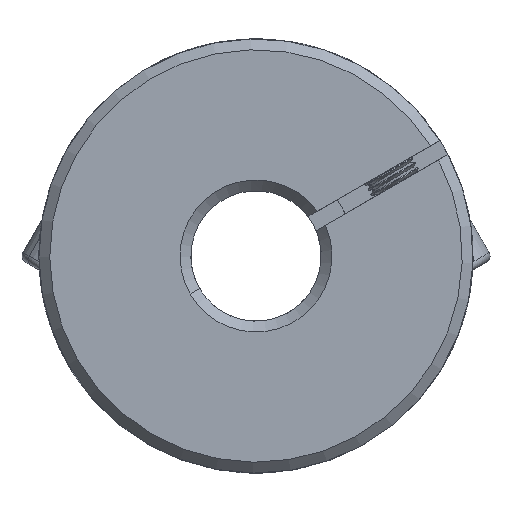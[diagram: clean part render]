
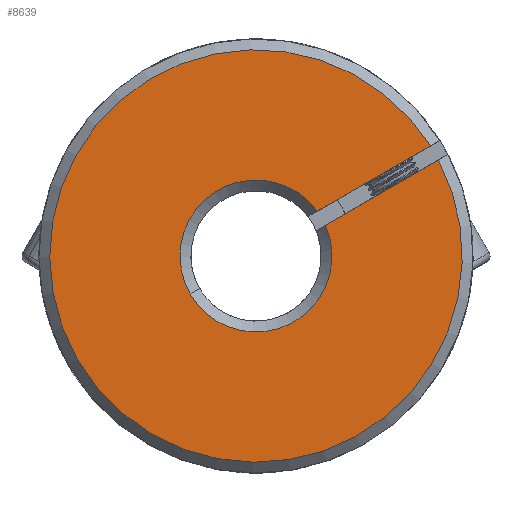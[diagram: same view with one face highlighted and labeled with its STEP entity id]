
A CAD part, front view. The second image highlights one B-rep face of the part: STEP entity #8639.
In plain terms, the highlighted planar face has unit normal (0, -1, 0).
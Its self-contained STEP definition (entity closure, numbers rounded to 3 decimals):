
#101 = PLANE ( 'NONE',  #3161 ) ;
#1009 = ORIENTED_EDGE ( 'NONE', *, *, #9622, .F. ) ;
#1121 = DIRECTION ( 'NONE',  ( 0., 1., 0. ) ) ;
#1793 = DIRECTION ( 'NONE',  ( 0.5, 0., -0.866 ) ) ;
#1805 = ORIENTED_EDGE ( 'NONE', *, *, #2521, .F. ) ;
#1842 = CARTESIAN_POINT ( 'NONE',  ( -1.447, -31.239, 40. ) ) ;
#1853 = VERTEX_POINT ( 'NONE', #9795 ) ;
#1957 = ORIENTED_EDGE ( 'NONE', *, *, #10071, .T. ) ;
#2521 = EDGE_CURVE ( 'NONE', #4926, #11601, #5019, .T. ) ;
#2985 = CARTESIAN_POINT ( 'NONE',  ( -1.447, -31.239, 40. ) ) ;
#3161 = AXIS2_PLACEMENT_3D ( 'NONE', #7474, #1121, #5464 ) ;
#3629 = EDGE_CURVE ( 'NONE', #4413, #11601, #12766, .T. ) ;
#3675 = CARTESIAN_POINT ( 'NONE',  ( 4.954, -31.239, 42.832 ) ) ;
#3915 = AXIS2_PLACEMENT_3D ( 'NONE', #10441, #9288, #8406 ) ;
#3949 = CARTESIAN_POINT ( 'NONE',  ( 4.204, -31.239, 44.131 ) ) ;
#4067 = EDGE_CURVE ( 'NONE', #4926, #1853, #9170, .T. ) ;
#4071 = ORIENTED_EDGE ( 'NONE', *, *, #3629, .T. ) ;
#4413 = VERTEX_POINT ( 'NONE', #9205 ) ;
#4926 = VERTEX_POINT ( 'NONE', #3675 ) ;
#5019 = LINE ( 'NONE', #12350, #8706 ) ;
#5026 = AXIS2_PLACEMENT_3D ( 'NONE', #2985, #11618, #1793 ) ;
#5187 = FACE_OUTER_BOUND ( 'NONE', #11106, .T. ) ;
#5324 = DIRECTION ( 'NONE',  ( -0.866, 0., -0.5 ) ) ;
#5464 = DIRECTION ( 'NONE',  ( 0.5, 0., -0.866 ) ) ;
#7129 = CARTESIAN_POINT ( 'NONE',  ( 15.367, -31.239, 48.848 ) ) ;
#7474 = CARTESIAN_POINT ( 'NONE',  ( 52.98, -31.239, 45.743 ) ) ;
#7752 = VERTEX_POINT ( 'NONE', #3949 ) ;
#8111 = DIRECTION ( 'NONE',  ( 0.866, 0., 0.5 ) ) ;
#8406 = DIRECTION ( 'NONE',  ( 0.5, 0., -0.866 ) ) ;
#8543 = AXIS2_PLACEMENT_3D ( 'NONE', #1842, #12667, #10318 ) ;
#8639 = ADVANCED_FACE ( 'NONE', ( #5187 ), #101, .F. ) ;
#8706 = VECTOR ( 'NONE', #8111, 1000. ) ;
#9170 = CIRCLE ( 'NONE', #8543, 7. ) ;
#9205 = CARTESIAN_POINT ( 'NONE',  ( 14.616, -31.239, 50.147 ) ) ;
#9288 = DIRECTION ( 'NONE',  ( 0., 1., 0. ) ) ;
#9527 = LINE ( 'NONE', #12806, #11034 ) ;
#9622 = EDGE_CURVE ( 'NONE', #4413, #7752, #9527, .T. ) ;
#9795 = CARTESIAN_POINT ( 'NONE',  ( -7.508, -31.239, 36.498 ) ) ;
#9828 = ORIENTED_EDGE ( 'NONE', *, *, #4067, .T. ) ;
#10071 = EDGE_CURVE ( 'NONE', #1853, #7752, #13080, .T. ) ;
#10318 = DIRECTION ( 'NONE',  ( 0.5, 0., -0.866 ) ) ;
#10441 = CARTESIAN_POINT ( 'NONE',  ( -1.447, -31.239, 40. ) ) ;
#11034 = VECTOR ( 'NONE', #5324, 1000. ) ;
#11106 = EDGE_LOOP ( 'NONE', ( #1805, #9828, #1957, #1009, #4071 ) ) ;
#11601 = VERTEX_POINT ( 'NONE', #7129 ) ;
#11618 = DIRECTION ( 'NONE',  ( 0., -1., 0. ) ) ;
#12350 = CARTESIAN_POINT ( 'NONE',  ( 4.083, -31.239, 42.329 ) ) ;
#12667 = DIRECTION ( 'NONE',  ( 0., 1., 0. ) ) ;
#12766 = CIRCLE ( 'NONE', #5026, 19. ) ;
#12806 = CARTESIAN_POINT ( 'NONE',  ( 3.332, -31.239, 43.628 ) ) ;
#13080 = CIRCLE ( 'NONE', #3915, 7. ) ;
